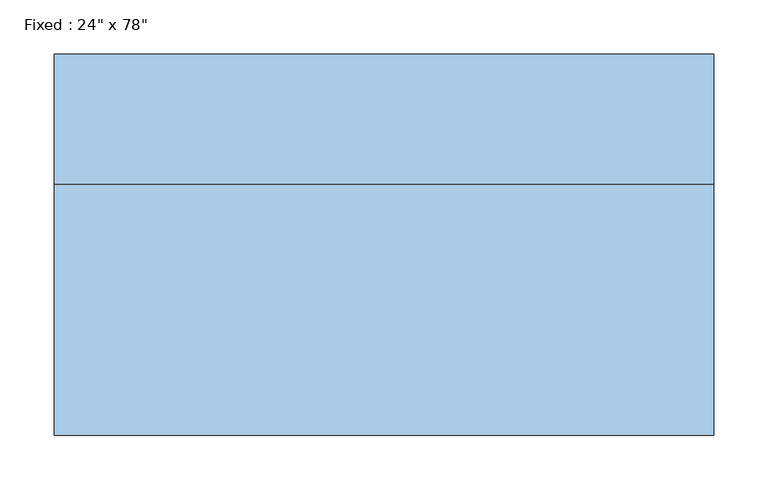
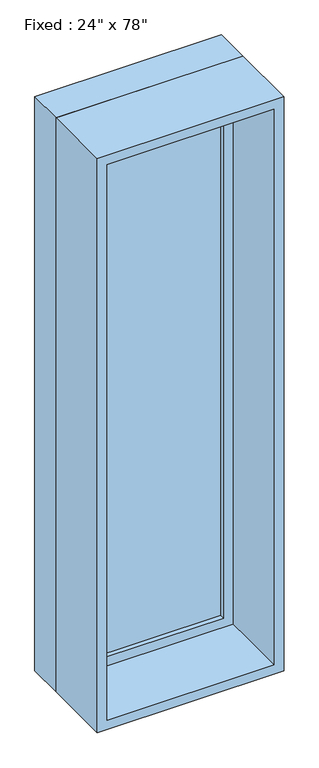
"""IFC4 building model written with IfcOpenShell, lengths in millimetres: window geometry."""

import ifcopenshell
import ifcopenshell.guid

model = None  # the IFC model being written
_history = None  # IfcOwnerHistory: only IFC2X3 demands one
_inside = {}  # id of a spatial element -> (the spatial element, [elements in it])
_under = {}  # id of a project, library or spatial element -> (it, [spatial elements below it])
_declared = {}  # id of a project -> (the project, [libraries it declares])
_typed = {}  # id of a type object -> (the type object, [elements of that type])
_made_of = {}  # id of a material, layer set ... -> (it, [elements and type objects made of it])


def new_model(schema):
    """Start an empty IFC model of exactly this schema.

    Asked for "IFC4X3", IfcOpenShell would pick the latest addendum, in which some entities
    have other attributes; the version numbers below select the first issue.
    IFC2X3 requires an IfcOwnerHistory on every rooted entity: one is made here for all.
    """
    global model, _history
    if schema == "IFC4X3":
        model = ifcopenshell.file(schema_version=(4, 3, 0, 0))
    else:
        model = ifcopenshell.file(schema=schema)
    _inside.clear()
    _under.clear()
    _declared.clear()
    _typed.clear()
    _made_of.clear()
    _history = None
    if model.schema == "IFC2X3":
        org = make("IfcOrganization", Name="unknown")
        user = make(
            "IfcPersonAndOrganization",
            ThePerson=make("IfcPerson", FamilyName="unknown"),
            TheOrganization=org,
        )
        app = make(
            "IfcApplication",
            ApplicationDeveloper=org,
            Version="unknown",
            ApplicationFullName="unknown",
            ApplicationIdentifier="unknown",
        )
        _history = make(
            "IfcOwnerHistory",
            OwningUser=user,
            OwningApplication=app,
            ChangeAction="ADDED",
            CreationDate=0,
        )
    return model


def make(cls, **values):
    """One entity of the class cls with the attributes given. An attribute that is None is left unset."""
    return model.create_entity(
        cls, **{name: value for name, value in values.items() if value is not None}
    )


def rooted(cls, **values):
    """An entity with a GlobalId (a new one), such as an element, a storey or a relation."""
    return make(cls, GlobalId=ifcopenshell.guid.new(), OwnerHistory=_history, **values)


def si_unit(unit_type, name, prefix=None):
    """IfcSIUnit, for example si_unit("LENGTHUNIT", "METRE", prefix="MILLI")."""
    return make("IfcSIUnit", UnitType=unit_type, Prefix=prefix, Name=name)


def assignment(units):
    """IfcUnitAssignment: the units of a project."""
    return None if units is None else make("IfcUnitAssignment", Units=units)


def point(xyz):
    """IfcCartesianPoint."""
    return None if xyz is None else make("IfcCartesianPoint", Coordinates=xyz)


def direction(xyz):
    """IfcDirection."""
    return None if xyz is None else make("IfcDirection", DirectionRatios=xyz)


def frame(location, z_axis=None, x_axis=None):
    """IfcAxis2Placement3D, a coordinate frame: its origin and axes. An axis left out is left unset."""
    return make(
        "IfcAxis2Placement3D",
        Location=point(location),
        Axis=direction(z_axis),
        RefDirection=direction(x_axis),
    )


def origin():
    """The frame at (0, 0, 0) with its axes left unset."""
    return frame((0.0, 0.0, 0.0))


def place(relative_to, where):
    """IfcLocalPlacement: puts the frame where relative to a parent placement (None: the world)."""
    return make(
        "IfcLocalPlacement", PlacementRelTo=relative_to, RelativePlacement=where
    )


def context(
    kind, dimensions, precision=None, world=None, true_north=None, identifier=None
):
    """IfcGeometricRepresentationContext, for example the 3D "Model" context."""
    return make(
        "IfcGeometricRepresentationContext",
        ContextIdentifier=identifier,
        ContextType=kind,
        CoordinateSpaceDimension=dimensions,
        Precision=precision,
        WorldCoordinateSystem=world,
        TrueNorth=true_north,
    )


def project(units=None, contexts=None):
    """IfcProject with its units and contexts."""
    return rooted(
        "IfcProject",
        Name="project",
        RepresentationContexts=contexts,
        UnitsInContext=assignment(units),
    )


def spatial(cls, under=None, at=None, **own):
    """A site, building, storey or space (cls), placed at a placement, below another one or the project."""
    s = rooted(cls, ObjectPlacement=at, **own)
    if under is not None:
        _under.setdefault(under.id(), (under, []))[1].append(s)
    return s


def polyline(points):
    """IfcPolyline through the points."""
    return make("IfcPolyline", Points=[point(p) for p in points])


def outline(outer, holes=None, kind="AREA"):
    """IfcArbitraryClosedProfileDef: a profile drawn as a closed curve; with holes, ...WithVoids."""
    if holes is None:
        return make("IfcArbitraryClosedProfileDef", ProfileType=kind, OuterCurve=outer)
    return make(
        "IfcArbitraryProfileDefWithVoids",
        ProfileType=kind,
        OuterCurve=outer,
        InnerCurves=holes,
    )


def extrude(swept, where, along, depth):
    """IfcExtrudedAreaSolid: the profile swept, set in the frame where, extruded along a direction by depth."""
    return make(
        "IfcExtrudedAreaSolid",
        SweptArea=swept,
        Position=where,
        ExtrudedDirection=direction(along),
        Depth=depth,
    )


def shape(context_of_items, identifier, shape_type, items):
    """IfcShapeRepresentation: the items that make up one representation, for example the "Body"."""
    return make(
        "IfcShapeRepresentation",
        ContextOfItems=context_of_items,
        RepresentationIdentifier=identifier,
        RepresentationType=shape_type,
        Items=items,
    )


def source(mapping_origin, context_of_items, identifier, shape_type, items):
    """IfcRepresentationMap: a shape defined once, which mapped items show again and again."""
    return make(
        "IfcRepresentationMap",
        MappingOrigin=mapping_origin,
        MappedRepresentation=shape(context_of_items, identifier, shape_type, items),
    )


def transform(
    local_origin,
    x_axis=None,
    y_axis=None,
    z_axis=None,
    scale=None,
    scale2=None,
    scale3=None,
    uniform=True,
):
    """IfcCartesianTransformationOperator3D, or its non-uniform kind. x_axis, y_axis, z_axis: its Axis1, 2, 3."""
    if uniform:
        return make(
            "IfcCartesianTransformationOperator3D",
            Axis1=direction(x_axis),
            Axis2=direction(y_axis),
            LocalOrigin=point(local_origin),
            Scale=scale,
            Axis3=direction(z_axis),
        )
    return make(
        "IfcCartesianTransformationOperator3DnonUniform",
        Axis1=direction(x_axis),
        Axis2=direction(y_axis),
        LocalOrigin=point(local_origin),
        Scale=scale,
        Axis3=direction(z_axis),
        Scale2=scale2,
        Scale3=scale3,
    )


def mapped(mapping_source, mapping_target):
    """IfcMappedItem: shows the shape of a source again, moved by a transform."""
    return make(
        "IfcMappedItem", MappingSource=mapping_source, MappingTarget=mapping_target
    )


def made_of(thing, what):
    """Note that an element or type object is made of a material, layer set ...; save() writes the relation."""
    if what is not None:
        _made_of.setdefault(what.id(), (what, []))[1].append(thing)
    return thing


def element(
    cls,
    number,
    at=None,
    inside=None,
    cuts=None,
    type_object=None,
    material=None,
    context=None,
    identifier="Body",
    shape_type=None,
    held_by="IfcProductDefinitionShape",
    body=None,
    shapes=None,
    **own,
):
    """One element of the class cls, such as IfcWall. Its Tag is "e" and its number.

    at: its placement. inside: the storey or other place that contains it. cuts: it is an
    opening in that element (IfcRelVoidsElement). A single representation is given by context,
    identifier, shape_type and body (its items); several are given by shapes. held_by: the class
    of the entity that holds the representations. save() writes the other relations.
    """
    e = rooted(cls, Tag="e%d" % number, ObjectPlacement=at, **own)
    if body is not None:
        shapes = [shape(context, identifier, shape_type, body)]
    if shapes is not None:
        e.Representation = make(held_by, Representations=shapes)
    if inside is not None:
        _inside.setdefault(inside.id(), (inside, []))[1].append(e)
    if cuts is not None:
        rooted(
            "IfcRelVoidsElement", RelatingBuildingElement=cuts, RelatedOpeningElement=e
        )
    if type_object is not None:
        _typed.setdefault(type_object.id(), (type_object, []))[1].append(e)
    return made_of(e, material)


def aggregate(whole, parts):
    """IfcRelAggregates: a whole, such as a stair, and the parts it consists of."""
    return rooted("IfcRelAggregates", RelatingObject=whole, RelatedObjects=parts)


def save(model, path):
    """Write the relations noted so far, then the file.

    IfcRelAggregates (storeys below a building ...), IfcRelContainedInSpatialStructure (elements
    in a storey), IfcRelDefinesByType, IfcRelAssociatesMaterial and IfcRelDeclares: one each for
    every whole, place, type object, material and project.
    """
    for whole, parts in _under.values():
        aggregate(whole, parts)
    for where, things in _inside.values():
        rooted(
            "IfcRelContainedInSpatialStructure",
            RelatedElements=things,
            RelatingStructure=where,
        )
    for kind, things in _typed.values():
        rooted("IfcRelDefinesByType", RelatedObjects=things, RelatingType=kind)
    for what, things in _made_of.values():
        rooted("IfcRelAssociatesMaterial", RelatedObjects=things, RelatingMaterial=what)
    for by, libraries in _declared.values():
        rooted("IfcRelDeclares", RelatingContext=by, RelatedDefinitions=libraries)
    model.write(path)


def window_b1c1038b(model_context):
    return source(origin(), model_context, "Body", "SweptSolid", [
        extrude(outline(polyline([(203.2, 71.4375), (-279.4, 71.4375), (-279.4, 84.1375), (203.2, 84.1375), (203.2, 71.4375)])), frame((0.0, 0.0, 368.3), z_axis=(0.0, 0.0, 1.0), x_axis=(1.0, 0.0, 0.0)), (0.0, 0.0, 1.0), 1854.2),
        extrude(outline(polyline([(2266.95, -323.85), (323.85, -323.85), (323.85, 247.65), (2266.95, 247.65), (2266.95, -323.85)]), holes=[polyline([(2222.5, -279.4), (2222.5, 203.2), (368.3, 203.2), (368.3, -279.4), (2222.5, -279.4)])]), frame((0.0, 55.5625, 0.0), z_axis=(0.0, 1.0, 0.0), x_axis=(0.0, 0.0, 1.0)), (0.0, 0.0, 1.0), 44.45),
        extrude(outline(polyline([(2286.0, -342.9), (304.8, -342.9), (304.8, 266.7), (2286.0, 266.7), (2286.0, -342.9)]), holes=[polyline([(2254.25, -311.15), (2254.25, 234.95), (336.55, 234.95), (336.55, -311.15), (2254.25, -311.15)])]), frame((0.0, -176.2125, 0.0), z_axis=(0.0, 1.0, 0.0), x_axis=(0.0, 0.0, 1.0)), (0.0, 0.0, 1.0), 231.775),
        extrude(outline(polyline([(2286.0, 266.7), (2286.0, -342.9), (304.8, -342.9), (304.8, 266.7), (2286.0, 266.7)]), holes=[polyline([(2266.95, 247.65), (323.85, 247.65), (323.85, -323.85), (2266.95, -323.85), (2266.95, 247.65)])]), frame((0.0, 55.5625, 0.0), z_axis=(0.0, 1.0, 0.0), x_axis=(0.0, 0.0, 1.0)), (0.0, 0.0, 1.0), 120.65),
    ])


if __name__ == "__main__":
    model = new_model("IFC4")
    model_context = context("Model", 3, world=origin())
    ifc_project = project(units=[si_unit("LENGTHUNIT", "METRE", prefix="MILLI")], contexts=[model_context])
    site = spatial("IfcSite", under=ifc_project)
    building = spatial("IfcBuilding", under=site)
    placement = place(None, origin())
    window_shape = window_b1c1038b(model_context)
    element("IfcWindow", 1, ObjectType="Fixed : 24\" x 78\"", at=placement, inside=building, context=model_context, shape_type="MappedRepresentation", body=[
        mapped(window_shape, transform((0.0, 0.0, 0.0), x_axis=(1.0, 0.0, 0.0), y_axis=(0.0, 1.0, 0.0), z_axis=(0.0, 0.0, 1.0))),
    ])
    save(model, "model.ifc")
